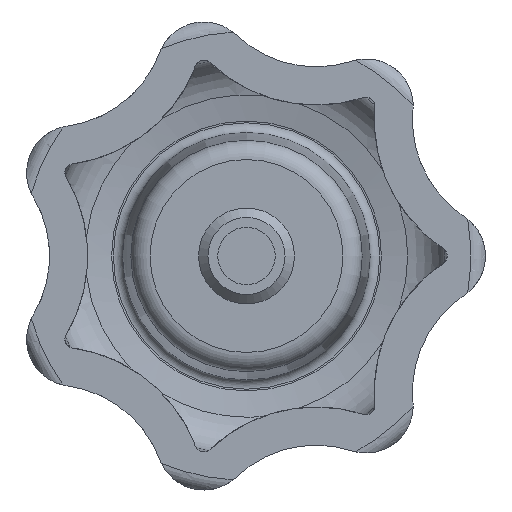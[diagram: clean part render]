
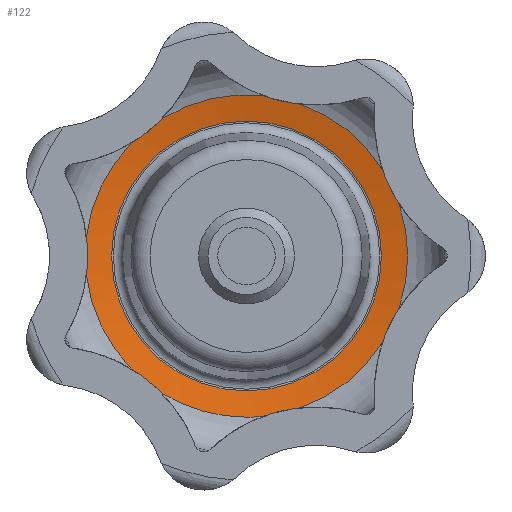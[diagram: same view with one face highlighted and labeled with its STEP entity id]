
A CAD part, front view. The second image highlights one B-rep face of the part: STEP entity #122.
In plain terms, the highlighted conical face has half-angle 78.449 degrees and reference radius 8.41 mm.
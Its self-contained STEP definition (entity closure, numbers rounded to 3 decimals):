
#122 = ADVANCED_FACE( '', ( #243, #244 ), #245, .F. );
#243 = FACE_BOUND( '', #396, .T. );
#244 = FACE_OUTER_BOUND( '', #397, .T. );
#245 = CONICAL_SURFACE( '', #398, 8.41, 1.369 );
#396 = EDGE_LOOP( '', ( #874 ) );
#397 = EDGE_LOOP( '', ( #875, #876, #877, #878, #879, #880, #881, #882, #883, #884, #885, #886, #887, #888 ) );
#398 = AXIS2_PLACEMENT_3D( '', #889, #890, #891 );
#874 = ORIENTED_EDGE( '', *, *, #1184, .F. );
#875 = ORIENTED_EDGE( '', *, *, #1120, .T. );
#876 = ORIENTED_EDGE( '', *, *, #1115, .T. );
#877 = ORIENTED_EDGE( '', *, *, #1166, .T. );
#878 = ORIENTED_EDGE( '', *, *, #1125, .T. );
#879 = ORIENTED_EDGE( '', *, *, #1163, .T. );
#880 = ORIENTED_EDGE( '', *, *, #1185, .T. );
#881 = ORIENTED_EDGE( '', *, *, #1170, .T. );
#882 = ORIENTED_EDGE( '', *, *, #1186, .T. );
#883 = ORIENTED_EDGE( '', *, *, #1176, .T. );
#884 = ORIENTED_EDGE( '', *, *, #1148, .T. );
#885 = ORIENTED_EDGE( '', *, *, #1179, .T. );
#886 = ORIENTED_EDGE( '', *, *, #1137, .T. );
#887 = ORIENTED_EDGE( '', *, *, #1181, .T. );
#888 = ORIENTED_EDGE( '', *, *, #1187, .T. );
#889 = CARTESIAN_POINT( '', ( 0., 13.06, 0. ) );
#890 = DIRECTION( '', ( 0., -1., 0. ) );
#891 = DIRECTION( '', ( 0., 0., -1. ) );
#1115 = EDGE_CURVE( '', #1368, #1365, #1369, .T. );
#1120 = EDGE_CURVE( '', #1376, #1368, #1377, .T. );
#1125 = EDGE_CURVE( '', #1386, #1383, #1387, .T. );
#1137 = EDGE_CURVE( '', #1400, #1405, #1407, .T. );
#1148 = EDGE_CURVE( '', #1427, #1424, #1428, .T. );
#1163 = EDGE_CURVE( '', #1383, #1444, #1445, .T. );
#1166 = EDGE_CURVE( '', #1365, #1386, #1448, .T. );
#1170 = EDGE_CURVE( '', #1454, #1455, #1456, .T. );
#1176 = EDGE_CURVE( '', #1466, #1427, #1467, .T. );
#1179 = EDGE_CURVE( '', #1424, #1400, #1470, .T. );
#1181 = EDGE_CURVE( '', #1405, #1472, #1473, .T. );
#1184 = EDGE_CURVE( '', #1476, #1476, #1477, .T. );
#1185 = EDGE_CURVE( '', #1444, #1454, #1478, .T. );
#1186 = EDGE_CURVE( '', #1455, #1466, #1479, .T. );
#1187 = EDGE_CURVE( '', #1472, #1376, #1480, .T. );
#1365 = VERTEX_POINT( '', #2138 );
#1368 = VERTEX_POINT( '', #2156 );
#1369 = B_SPLINE_CURVE_WITH_KNOTS( '', 3, ( #2157, #2158, #2159, #2160 ), .UNSPECIFIED., .F., .F., ( 4, 4 ), ( 0., 0.002 ), .UNSPECIFIED. );
#1376 = VERTEX_POINT( '', #2183 );
#1377 = CIRCLE( '', #2184, 8.41 );
#1383 = VERTEX_POINT( '', #2208 );
#1386 = VERTEX_POINT( '', #2226 );
#1387 = B_SPLINE_CURVE_WITH_KNOTS( '', 3, ( #2227, #2228, #2229, #2230 ), .UNSPECIFIED., .F., .F., ( 4, 4 ), ( 0., 0.002 ), .UNSPECIFIED. );
#1400 = VERTEX_POINT( '', #2292 );
#1405 = VERTEX_POINT( '', #2310 );
#1407 = B_SPLINE_CURVE_WITH_KNOTS( '', 3, ( #2327, #2328, #2329, #2330 ), .UNSPECIFIED., .F., .F., ( 4, 4 ), ( 0., 0.002 ), .UNSPECIFIED. );
#1424 = VERTEX_POINT( '', #2420 );
#1427 = VERTEX_POINT( '', #2438 );
#1428 = B_SPLINE_CURVE_WITH_KNOTS( '', 3, ( #2439, #2440, #2441, #2442 ), .UNSPECIFIED., .F., .F., ( 4, 4 ), ( 0., 0.002 ), .UNSPECIFIED. );
#1444 = VERTEX_POINT( '', #2589 );
#1445 = CIRCLE( '', #2590, 8.41 );
#1448 = CIRCLE( '', #2604, 8.41 );
#1454 = VERTEX_POINT( '', #2616 );
#1455 = VERTEX_POINT( '', #2617 );
#1456 = CIRCLE( '', #2618, 8.41 );
#1466 = VERTEX_POINT( '', #2660 );
#1467 = CIRCLE( '', #2661, 8.41 );
#1470 = CIRCLE( '', #2679, 8.41 );
#1472 = VERTEX_POINT( '', #2681 );
#1473 = CIRCLE( '', #2682, 8.41 );
#1476 = VERTEX_POINT( '', #2696 );
#1477 = CIRCLE( '', #2697, 7.04 );
#1478 = B_SPLINE_CURVE_WITH_KNOTS( '', 3, ( #2698, #2699, #2700, #2701 ), .UNSPECIFIED., .F., .F., ( 4, 4 ), ( 0., 0.002 ), .UNSPECIFIED. );
#1479 = B_SPLINE_CURVE_WITH_KNOTS( '', 3, ( #2702, #2703, #2704, #2705 ), .UNSPECIFIED., .F., .F., ( 4, 4 ), ( 0., 0.002 ), .UNSPECIFIED. );
#1480 = B_SPLINE_CURVE_WITH_KNOTS( '', 3, ( #2706, #2707, #2708, #2709 ), .UNSPECIFIED., .F., .F., ( 4, 4 ), ( 0., 0.002 ), .UNSPECIFIED. );
#2138 = CARTESIAN_POINT( '', ( -4.428, 13.06, -7.15 ) );
#2156 = CARTESIAN_POINT( '', ( -5.985, 13.06, -5.908 ) );
#2157 = CARTESIAN_POINT( '', ( -5.985, 13.06, -5.908 ) );
#2158 = CARTESIAN_POINT( '', ( -5.414, 13.093, -6.257 ) );
#2159 = CARTESIAN_POINT( '', ( -4.896, 13.093, -6.671 ) );
#2160 = CARTESIAN_POINT( '', ( -4.428, 13.06, -7.15 ) );
#2183 = CARTESIAN_POINT( '', ( -8.351, 13.06, -0.996 ) );
#2184 = AXIS2_PLACEMENT_3D( '', #2955, #2956, #2957 );
#2208 = CARTESIAN_POINT( '', ( 2.829, 13.06, -7.92 ) );
#2226 = CARTESIAN_POINT( '', ( 0.888, 13.06, -8.363 ) );
#2227 = CARTESIAN_POINT( '', ( 0.888, 13.06, -8.363 ) );
#2228 = CARTESIAN_POINT( '', ( 1.516, 13.093, -8.134 ) );
#2229 = CARTESIAN_POINT( '', ( 2.163, 13.093, -7.987 ) );
#2230 = CARTESIAN_POINT( '', ( 2.829, 13.06, -7.92 ) );
#2292 = CARTESIAN_POINT( '', ( -4.428, 13.06, 7.15 ) );
#2310 = CARTESIAN_POINT( '', ( -5.985, 13.06, 5.908 ) );
#2327 = CARTESIAN_POINT( '', ( -4.428, 13.06, 7.15 ) );
#2328 = CARTESIAN_POINT( '', ( -4.896, 13.093, 6.671 ) );
#2329 = CARTESIAN_POINT( '', ( -5.414, 13.093, 6.257 ) );
#2330 = CARTESIAN_POINT( '', ( -5.985, 13.06, 5.908 ) );
#2420 = CARTESIAN_POINT( '', ( 0.888, 13.06, 8.363 ) );
#2438 = CARTESIAN_POINT( '', ( 2.829, 13.06, 7.92 ) );
#2439 = CARTESIAN_POINT( '', ( 2.829, 13.06, 7.92 ) );
#2440 = CARTESIAN_POINT( '', ( 2.163, 13.093, 7.987 ) );
#2441 = CARTESIAN_POINT( '', ( 1.516, 13.093, 8.134 ) );
#2442 = CARTESIAN_POINT( '', ( 0.888, 13.06, 8.363 ) );
#2589 = CARTESIAN_POINT( '', ( 7.092, 13.06, -4.52 ) );
#2590 = AXIS2_PLACEMENT_3D( '', #2974, #2975, #2976 );
#2604 = AXIS2_PLACEMENT_3D( '', #2980, #2981, #2982 );
#2616 = CARTESIAN_POINT( '', ( 7.956, 13.06, -2.726 ) );
#2617 = CARTESIAN_POINT( '', ( 7.956, 13.06, 2.726 ) );
#2618 = AXIS2_PLACEMENT_3D( '', #2986, #2987, #2988 );
#2660 = CARTESIAN_POINT( '', ( 7.092, 13.06, 4.52 ) );
#2661 = AXIS2_PLACEMENT_3D( '', #2992, #2993, #2994 );
#2679 = AXIS2_PLACEMENT_3D( '', #2998, #2999, #3000 );
#2681 = CARTESIAN_POINT( '', ( -8.351, 13.06, 0.996 ) );
#2682 = AXIS2_PLACEMENT_3D( '', #3004, #3005, #3006 );
#2696 = CARTESIAN_POINT( '', ( 0., 13.34, -7.04 ) );
#2697 = AXIS2_PLACEMENT_3D( '', #3010, #3011, #3012 );
#2698 = CARTESIAN_POINT( '', ( 7.092, 13.06, -4.52 ) );
#2699 = CARTESIAN_POINT( '', ( 7.305, 13.093, -3.886 ) );
#2700 = CARTESIAN_POINT( '', ( 7.593, 13.093, -3.288 ) );
#2701 = CARTESIAN_POINT( '', ( 7.956, 13.06, -2.726 ) );
#2702 = CARTESIAN_POINT( '', ( 7.956, 13.06, 2.726 ) );
#2703 = CARTESIAN_POINT( '', ( 7.593, 13.093, 3.288 ) );
#2704 = CARTESIAN_POINT( '', ( 7.305, 13.093, 3.886 ) );
#2705 = CARTESIAN_POINT( '', ( 7.092, 13.06, 4.52 ) );
#2706 = CARTESIAN_POINT( '', ( -8.351, 13.06, 0.996 ) );
#2707 = CARTESIAN_POINT( '', ( -8.268, 13.093, 0.332 ) );
#2708 = CARTESIAN_POINT( '', ( -8.268, 13.093, -0.332 ) );
#2709 = CARTESIAN_POINT( '', ( -8.351, 13.06, -0.996 ) );
#2955 = CARTESIAN_POINT( '', ( 0., 13.06, 0. ) );
#2956 = DIRECTION( '', ( 0., -1., 0. ) );
#2957 = DIRECTION( '', ( 0., 0., -1. ) );
#2974 = CARTESIAN_POINT( '', ( 0., 13.06, 0. ) );
#2975 = DIRECTION( '', ( 0., -1., 0. ) );
#2976 = DIRECTION( '', ( 0., 0., -1. ) );
#2980 = CARTESIAN_POINT( '', ( 0., 13.06, 0. ) );
#2981 = DIRECTION( '', ( 0., -1., 0. ) );
#2982 = DIRECTION( '', ( 0., 0., -1. ) );
#2986 = CARTESIAN_POINT( '', ( 0., 13.06, 0. ) );
#2987 = DIRECTION( '', ( 0., -1., 0. ) );
#2988 = DIRECTION( '', ( 0., 0., -1. ) );
#2992 = CARTESIAN_POINT( '', ( 0., 13.06, 0. ) );
#2993 = DIRECTION( '', ( 0., -1., 0. ) );
#2994 = DIRECTION( '', ( 0., 0., -1. ) );
#2998 = CARTESIAN_POINT( '', ( 0., 13.06, 0. ) );
#2999 = DIRECTION( '', ( 0., -1., 0. ) );
#3000 = DIRECTION( '', ( 0., 0., -1. ) );
#3004 = CARTESIAN_POINT( '', ( 0., 13.06, 0. ) );
#3005 = DIRECTION( '', ( 0., -1., 0. ) );
#3006 = DIRECTION( '', ( 0., 0., -1. ) );
#3010 = CARTESIAN_POINT( '', ( 0., 13.34, 0. ) );
#3011 = DIRECTION( '', ( 0., -1., 0. ) );
#3012 = DIRECTION( '', ( 0., 0., -1. ) );
